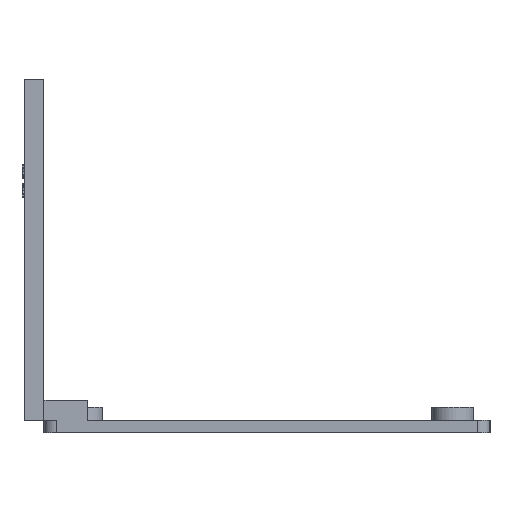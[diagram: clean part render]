
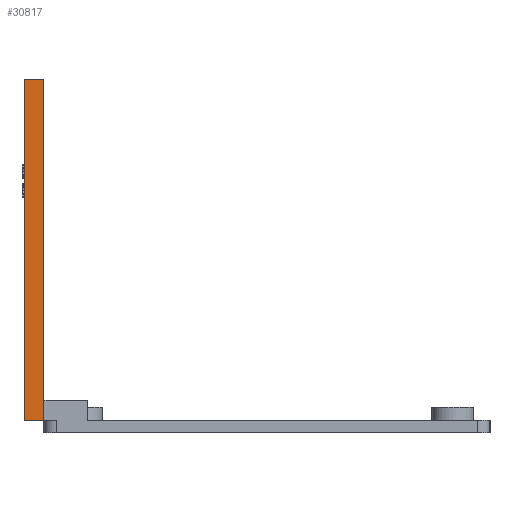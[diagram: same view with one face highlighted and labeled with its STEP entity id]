
A CAD part, left-side view. The second image highlights one B-rep face of the part: STEP entity #30817.
In plain terms, the highlighted planar face has unit normal (-1, 0, 0).
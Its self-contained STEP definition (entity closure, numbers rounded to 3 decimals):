
#156 = PLANE('',#157);
#157 = AXIS2_PLACEMENT_3D('',#158,#159,#160);
#158 = CARTESIAN_POINT('',(5.5,280.,7.9));
#159 = DIRECTION('',(0.,0.,1.));
#160 = DIRECTION('',(1.,0.,0.));
#184 = PLANE('',#185);
#185 = AXIS2_PLACEMENT_3D('',#186,#187,#188);
#186 = CARTESIAN_POINT('',(5.5,280.,7.9));
#187 = DIRECTION('',(0.,1.,0.));
#188 = DIRECTION('',(0.,0.,1.));
#767 = VERTEX_POINT('',#768);
#768 = CARTESIAN_POINT('',(5.5,280.,7.9));
#789 = EDGE_CURVE('',#767,#790,#792,.T.);
#790 = VERTEX_POINT('',#791);
#791 = CARTESIAN_POINT('',(5.5,280.,63.));
#792 = SURFACE_CURVE('',#793,(#797,#804),.PCURVE_S1.);
#793 = LINE('',#794,#795);
#794 = CARTESIAN_POINT('',(5.5,280.,7.9));
#795 = VECTOR('',#796,1.);
#796 = DIRECTION('',(0.,0.,1.));
#797 = PCURVE('',#184,#798);
#798 = DEFINITIONAL_REPRESENTATION('',(#799),#803);
#799 = LINE('',#800,#801);
#800 = CARTESIAN_POINT('',(0.,0.));
#801 = VECTOR('',#802,1.);
#802 = DIRECTION('',(1.,0.));
#803 = ( GEOMETRIC_REPRESENTATION_CONTEXT(2) 
PARAMETRIC_REPRESENTATION_CONTEXT() REPRESENTATION_CONTEXT('2D SPACE',''
  ) );
#804 = PCURVE('',#805,#810);
#805 = PLANE('',#806);
#806 = AXIS2_PLACEMENT_3D('',#807,#808,#809);
#807 = CARTESIAN_POINT('',(5.5,280.,7.9));
#808 = DIRECTION('',(1.,0.,0.));
#809 = DIRECTION('',(0.,0.,1.));
#810 = DEFINITIONAL_REPRESENTATION('',(#811),#815);
#811 = LINE('',#812,#813);
#812 = CARTESIAN_POINT('',(0.,0.));
#813 = VECTOR('',#814,1.);
#814 = DIRECTION('',(1.,0.));
#815 = ( GEOMETRIC_REPRESENTATION_CONTEXT(2) 
PARAMETRIC_REPRESENTATION_CONTEXT() REPRESENTATION_CONTEXT('2D SPACE',''
  ) );
#833 = PLANE('',#834);
#834 = AXIS2_PLACEMENT_3D('',#835,#836,#837);
#835 = CARTESIAN_POINT('',(5.5,280.,63.));
#836 = DIRECTION('',(0.,0.,1.));
#837 = DIRECTION('',(1.,0.,0.));
#1737 = PLANE('',#1738);
#1738 = AXIS2_PLACEMENT_3D('',#1739,#1740,#1741);
#1739 = CARTESIAN_POINT('',(5.5,283.2,7.9));
#1740 = DIRECTION('',(0.,1.,0.));
#1741 = DIRECTION('',(0.,0.,1.));
#1773 = VERTEX_POINT('',#1774);
#1774 = CARTESIAN_POINT('',(5.5,283.2,7.9));
#1797 = EDGE_CURVE('',#1773,#1798,#1800,.T.);
#1798 = VERTEX_POINT('',#1799);
#1799 = CARTESIAN_POINT('',(5.5,283.2,63.));
#1800 = SURFACE_CURVE('',#1801,(#1805,#1812),.PCURVE_S1.);
#1801 = LINE('',#1802,#1803);
#1802 = CARTESIAN_POINT('',(5.5,283.2,7.9));
#1803 = VECTOR('',#1804,1.);
#1804 = DIRECTION('',(0.,0.,1.));
#1805 = PCURVE('',#1737,#1806);
#1806 = DEFINITIONAL_REPRESENTATION('',(#1807),#1811);
#1807 = LINE('',#1808,#1809);
#1808 = CARTESIAN_POINT('',(0.,0.));
#1809 = VECTOR('',#1810,1.);
#1810 = DIRECTION('',(1.,0.));
#1811 = ( GEOMETRIC_REPRESENTATION_CONTEXT(2) 
PARAMETRIC_REPRESENTATION_CONTEXT() REPRESENTATION_CONTEXT('2D SPACE',''
  ) );
#1812 = PCURVE('',#805,#1813);
#1813 = DEFINITIONAL_REPRESENTATION('',(#1814),#1818);
#1814 = LINE('',#1815,#1816);
#1815 = CARTESIAN_POINT('',(0.,-3.2));
#1816 = VECTOR('',#1817,1.);
#1817 = DIRECTION('',(1.,0.));
#1818 = ( GEOMETRIC_REPRESENTATION_CONTEXT(2) 
PARAMETRIC_REPRESENTATION_CONTEXT() REPRESENTATION_CONTEXT('2D SPACE',''
  ) );
#30794 = EDGE_CURVE('',#790,#1798,#30795,.T.);
#30795 = SURFACE_CURVE('',#30796,(#30800,#30807),.PCURVE_S1.);
#30796 = LINE('',#30797,#30798);
#30797 = CARTESIAN_POINT('',(5.5,280.,63.));
#30798 = VECTOR('',#30799,1.);
#30799 = DIRECTION('',(0.,1.,0.));
#30800 = PCURVE('',#833,#30801);
#30801 = DEFINITIONAL_REPRESENTATION('',(#30802),#30806);
#30802 = LINE('',#30803,#30804);
#30803 = CARTESIAN_POINT('',(0.,0.));
#30804 = VECTOR('',#30805,1.);
#30805 = DIRECTION('',(0.,1.));
#30806 = ( GEOMETRIC_REPRESENTATION_CONTEXT(2) 
PARAMETRIC_REPRESENTATION_CONTEXT() REPRESENTATION_CONTEXT('2D SPACE',''
  ) );
#30807 = PCURVE('',#805,#30808);
#30808 = DEFINITIONAL_REPRESENTATION('',(#30809),#30813);
#30809 = LINE('',#30810,#30811);
#30810 = CARTESIAN_POINT('',(55.1,0.));
#30811 = VECTOR('',#30812,1.);
#30812 = DIRECTION('',(0.,-1.));
#30813 = ( GEOMETRIC_REPRESENTATION_CONTEXT(2) 
PARAMETRIC_REPRESENTATION_CONTEXT() REPRESENTATION_CONTEXT('2D SPACE',''
  ) );
#30817 = ADVANCED_FACE('',(#30818),#805,.F.);
#30818 = FACE_BOUND('',#30819,.F.);
#30819 = EDGE_LOOP('',(#30820,#30821,#30842,#30843));
#30820 = ORIENTED_EDGE('',*,*,#789,.F.);
#30821 = ORIENTED_EDGE('',*,*,#30822,.T.);
#30822 = EDGE_CURVE('',#767,#1773,#30823,.T.);
#30823 = SURFACE_CURVE('',#30824,(#30828,#30835),.PCURVE_S1.);
#30824 = LINE('',#30825,#30826);
#30825 = CARTESIAN_POINT('',(5.5,280.,7.9));
#30826 = VECTOR('',#30827,1.);
#30827 = DIRECTION('',(0.,1.,0.));
#30828 = PCURVE('',#805,#30829);
#30829 = DEFINITIONAL_REPRESENTATION('',(#30830),#30834);
#30830 = LINE('',#30831,#30832);
#30831 = CARTESIAN_POINT('',(0.,0.));
#30832 = VECTOR('',#30833,1.);
#30833 = DIRECTION('',(0.,-1.));
#30834 = ( GEOMETRIC_REPRESENTATION_CONTEXT(2) 
PARAMETRIC_REPRESENTATION_CONTEXT() REPRESENTATION_CONTEXT('2D SPACE',''
  ) );
#30835 = PCURVE('',#156,#30836);
#30836 = DEFINITIONAL_REPRESENTATION('',(#30837),#30841);
#30837 = LINE('',#30838,#30839);
#30838 = CARTESIAN_POINT('',(0.,0.));
#30839 = VECTOR('',#30840,1.);
#30840 = DIRECTION('',(0.,1.));
#30841 = ( GEOMETRIC_REPRESENTATION_CONTEXT(2) 
PARAMETRIC_REPRESENTATION_CONTEXT() REPRESENTATION_CONTEXT('2D SPACE',''
  ) );
#30842 = ORIENTED_EDGE('',*,*,#1797,.T.);
#30843 = ORIENTED_EDGE('',*,*,#30794,.F.);
